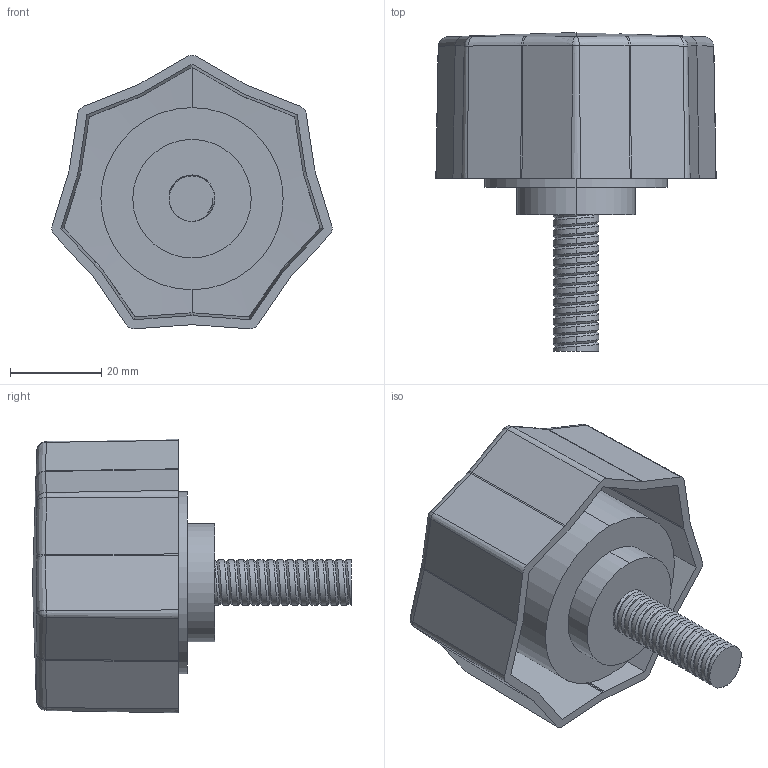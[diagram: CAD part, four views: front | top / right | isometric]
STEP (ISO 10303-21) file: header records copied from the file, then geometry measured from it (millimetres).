
FILE_DESCRIPTION (( 'STEP AP203' ), '1' );
FILE_NAME ('AP-1050-63-M10-30.STEP', '2015-11-23T12:04:52', ( '' ), ( '' ), 'SwSTEP 2.0', 'SolidWorks 2014', '' );
FILE_SCHEMA (( 'CONFIG_CONTROL_DESIGN' ));
Length unit declared in the file: millimetre
Products named in the file (1): AP-1050-63-M10-30
Bounding box: 61.52 x 70 x 60.07 mm (x, y, z)
Volume: 60831.7 mm3; surface area: 21568.4 mm2
Topology: 1 solids, 1 shells, 147 faces, 375 edges, 224 vertices
Faces by surface type: cylinder 51, bspline 51, plane 34, cone 11
Entity records: 8513 total; most frequent: CARTESIAN_POINT 5583, ORIENTED_EDGE 732, DIRECTION 416, EDGE_CURVE 366, VERTEX_POINT 224, EDGE_LOOP 150, FACE_OUTER_BOUND 147, ADVANCED_FACE 147
